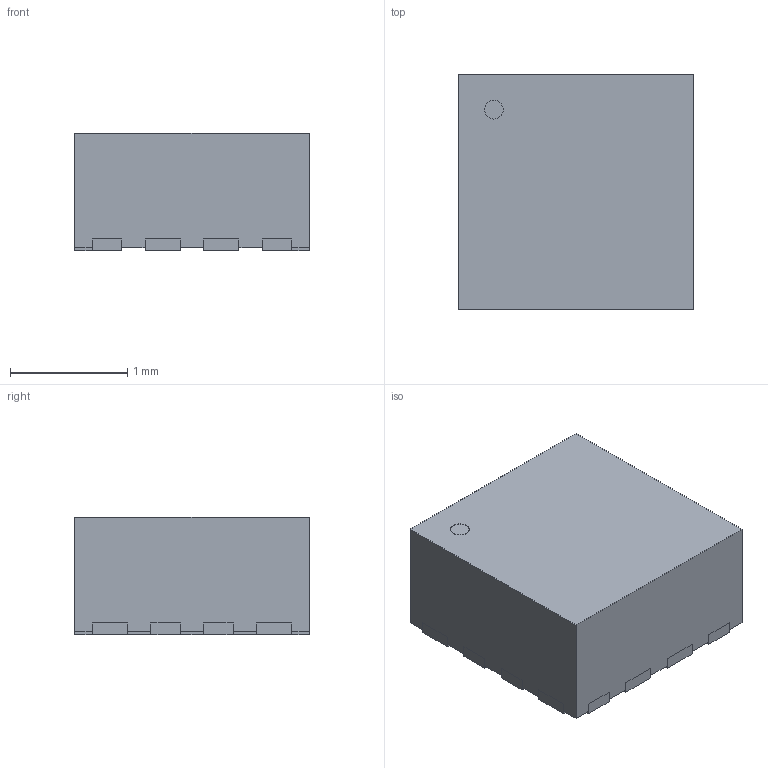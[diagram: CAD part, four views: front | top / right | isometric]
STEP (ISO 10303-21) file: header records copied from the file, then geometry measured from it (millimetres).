
FILE_DESCRIPTION(('Open CASCADE Model'),'2;1');
FILE_NAME('Open CASCADE Shape Model','2026-10-10T19:21:51',('Author'),( 'Open CASCADE'),'Open CASCADE STEP processor 7.9','Open CASCADE 7.9' ,'Unknown');
FILE_SCHEMA(('AUTOMOTIVE_DESIGN { 1 0 10303 214 1 1 1 1 }'));
Length unit declared in the file: millimetre
Products named in the file (4): TI_RPW0010A_HotRod_2x2mm_NominalXY_MaxHeight; mold_body_nominal_XY_max_height; ten_electrical_terminal_shapes; illustrative_pin1_mark
Assembly tree (3 placements, depth 2):
  TI_RPW0010A_HotRod_2x2mm_NominalXY_MaxHeight
    mold_body_nominal_XY_max_height
    ten_electrical_terminal_shapes
    illustrative_pin1_mark
Bounding box: 2 x 2 x 1 mm (x, y, z)
Volume: 4 mm3; surface area: 23.4 mm2
Topology: 12 solids, 12 shells, 167 faces, 378 edges, 236 vertices
Faces by surface type: plane 165, cylinder 2
Full cylindrical faces by diameter (mm): 0.16 x2
Entity records: 9462 total; most frequent: CARTESIAN_POINT 1637, DIRECTION 1384, LINE 1030, VECTOR 1030, ORIENTED_EDGE 756, PCURVE 756, DEFINITIONAL_REPRESENTATION 756, EDGE_CURVE 378
